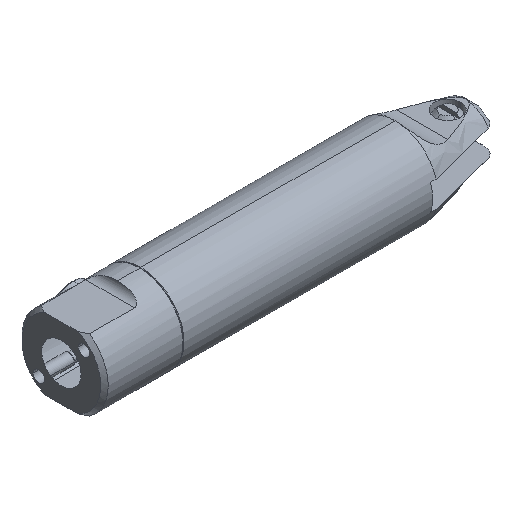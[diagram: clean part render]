
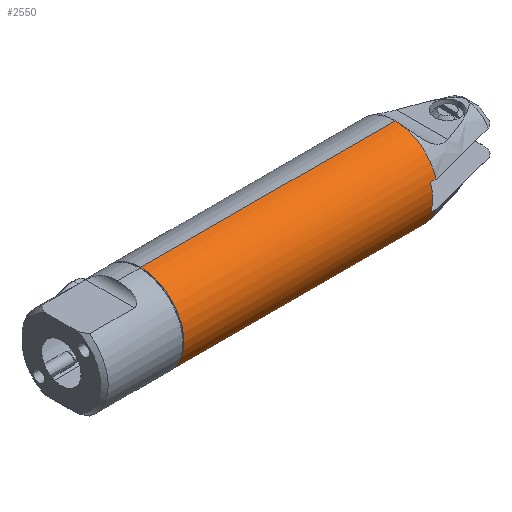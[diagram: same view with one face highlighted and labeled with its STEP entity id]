
A CAD part, isometric view. The second image highlights one B-rep face of the part: STEP entity #2550.
In plain terms, the highlighted cylindrical face has radius 11.5 mm (diameter 23 mm), a partial arc.
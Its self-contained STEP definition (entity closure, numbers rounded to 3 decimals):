
#12 = LINE ( 'NONE', #3454, #1942 ) ;
#98 = VERTEX_POINT ( 'NONE', #1768 ) ;
#171 = CARTESIAN_POINT ( 'NONE',  ( -29.585, -16.842, -11.5 ) ) ;
#334 = CARTESIAN_POINT ( 'NONE',  ( 38.215, -27.797, -3.5 ) ) ;
#378 = DIRECTION ( 'NONE',  ( 0., 0., -1. ) ) ;
#408 = ORIENTED_EDGE ( 'NONE', *, *, #4344, .T. ) ;
#530 = CARTESIAN_POINT ( 'NONE',  ( 38.215, -27.797, 3.5 ) ) ;
#629 = VECTOR ( 'NONE', #3532, 1000. ) ;
#645 = DIRECTION ( 'NONE',  ( 1., 0., 0. ) ) ;
#721 = ORIENTED_EDGE ( 'NONE', *, *, #874, .T. ) ;
#774 = CARTESIAN_POINT ( 'NONE',  ( 38.215, -16.842, 0. ) ) ;
#786 = DIRECTION ( 'NONE',  ( -1., 0., 0. ) ) ;
#874 = EDGE_CURVE ( 'NONE', #4136, #4236, #4505, .T. ) ;
#1023 = AXIS2_PLACEMENT_3D ( 'NONE', #4334, #786, #2965 ) ;
#1038 = CARTESIAN_POINT ( 'NONE',  ( 38.215, -16.842, 11.5 ) ) ;
#1226 = AXIS2_PLACEMENT_3D ( 'NONE', #1412, #1394, #1383 ) ;
#1266 = LINE ( 'NONE', #1441, #3961 ) ;
#1268 = CARTESIAN_POINT ( 'NONE',  ( -29.585, -16.842, 0. ) ) ;
#1332 = ORIENTED_EDGE ( 'NONE', *, *, #3210, .T. ) ;
#1371 = ORIENTED_EDGE ( 'NONE', *, *, #4446, .T. ) ;
#1383 = DIRECTION ( 'NONE',  ( 0., 0., 1. ) ) ;
#1394 = DIRECTION ( 'NONE',  ( 1., 0., 0. ) ) ;
#1411 = CARTESIAN_POINT ( 'NONE',  ( 38.215, -16.842, 11.5 ) ) ;
#1412 = CARTESIAN_POINT ( 'NONE',  ( 38.215, -16.842, 0. ) ) ;
#1441 = CARTESIAN_POINT ( 'NONE',  ( 38.215, -16.842, -11.5 ) ) ;
#1482 = CIRCLE ( 'NONE', #1694, 11.5 ) ;
#1625 = DIRECTION ( 'NONE',  ( 0., 0., -1. ) ) ;
#1694 = AXIS2_PLACEMENT_3D ( 'NONE', #2827, #645, #3190 ) ;
#1696 = ORIENTED_EDGE ( 'NONE', *, *, #1940, .F. ) ;
#1768 = CARTESIAN_POINT ( 'NONE',  ( -29.585, -16.842, 11.5 ) ) ;
#1801 = AXIS2_PLACEMENT_3D ( 'NONE', #774, #2558, #378 ) ;
#1940 = EDGE_CURVE ( 'NONE', #4136, #98, #4090, .T. ) ;
#1942 = VECTOR ( 'NONE', #2038, 1000. ) ;
#2038 = DIRECTION ( 'NONE',  ( 1., 0., 0. ) ) ;
#2168 = DIRECTION ( 'NONE',  ( -1., 0., 0. ) ) ;
#2388 = CIRCLE ( 'NONE', #1801, 11.5 ) ;
#2407 = EDGE_CURVE ( 'NONE', #3197, #4167, #12, .T. ) ;
#2413 = ORIENTED_EDGE ( 'NONE', *, *, #2407, .T. ) ;
#2453 = CYLINDRICAL_SURFACE ( 'NONE', #1023, 11.5 ) ;
#2550 = ADVANCED_FACE ( 'NONE', ( #3398 ), #2453, .F. ) ;
#2558 = DIRECTION ( 'NONE',  ( 1., 0., 0. ) ) ;
#2595 = ORIENTED_EDGE ( 'NONE', *, *, #2755, .F. ) ;
#2721 = DIRECTION ( 'NONE',  ( -1., 0., 0. ) ) ;
#2755 = EDGE_CURVE ( 'NONE', #98, #3535, #4360, .T. ) ;
#2827 = CARTESIAN_POINT ( 'NONE',  ( 36.715, -16.842, 0. ) ) ;
#2883 = VERTEX_POINT ( 'NONE', #4153 ) ;
#2890 = VECTOR ( 'NONE', #2721, 1000. ) ;
#2965 = DIRECTION ( 'NONE',  ( 0., 0., 1. ) ) ;
#3190 = DIRECTION ( 'NONE',  ( 0., 0., 1. ) ) ;
#3197 = VERTEX_POINT ( 'NONE', #4193 ) ;
#3210 = EDGE_CURVE ( 'NONE', #2883, #3197, #1482, .T. ) ;
#3218 = CARTESIAN_POINT ( 'NONE',  ( 38.215, -16.842, -11.5 ) ) ;
#3253 = VERTEX_POINT ( 'NONE', #3218 ) ;
#3341 = EDGE_CURVE ( 'NONE', #3253, #3535, #1266, .T. ) ;
#3398 = FACE_OUTER_BOUND ( 'NONE', #3916, .T. ) ;
#3454 = CARTESIAN_POINT ( 'NONE',  ( 38.215, -27.797, -3.5 ) ) ;
#3532 = DIRECTION ( 'NONE',  ( -1., 0., 0. ) ) ;
#3535 = VERTEX_POINT ( 'NONE', #171 ) ;
#3598 = CARTESIAN_POINT ( 'NONE',  ( 38.215, -27.797, 3.5 ) ) ;
#3746 = DIRECTION ( 'NONE',  ( 1., 0., 0. ) ) ;
#3804 = LINE ( 'NONE', #530, #2890 ) ;
#3916 = EDGE_LOOP ( 'NONE', ( #408, #4507, #2595, #1696, #721, #1371, #1332, #2413 ) ) ;
#3961 = VECTOR ( 'NONE', #2168, 1000. ) ;
#4090 = LINE ( 'NONE', #1038, #629 ) ;
#4136 = VERTEX_POINT ( 'NONE', #1411 ) ;
#4153 = CARTESIAN_POINT ( 'NONE',  ( 36.715, -27.797, 3.5 ) ) ;
#4167 = VERTEX_POINT ( 'NONE', #334 ) ;
#4193 = CARTESIAN_POINT ( 'NONE',  ( 36.715, -27.797, -3.5 ) ) ;
#4236 = VERTEX_POINT ( 'NONE', #3598 ) ;
#4334 = CARTESIAN_POINT ( 'NONE',  ( 38.215, -16.842, 0. ) ) ;
#4344 = EDGE_CURVE ( 'NONE', #4167, #3253, #2388, .T. ) ;
#4360 = CIRCLE ( 'NONE', #4579, 11.5 ) ;
#4446 = EDGE_CURVE ( 'NONE', #4236, #2883, #3804, .T. ) ;
#4505 = CIRCLE ( 'NONE', #1226, 11.5 ) ;
#4507 = ORIENTED_EDGE ( 'NONE', *, *, #3341, .T. ) ;
#4579 = AXIS2_PLACEMENT_3D ( 'NONE', #1268, #3746, #1625 ) ;
